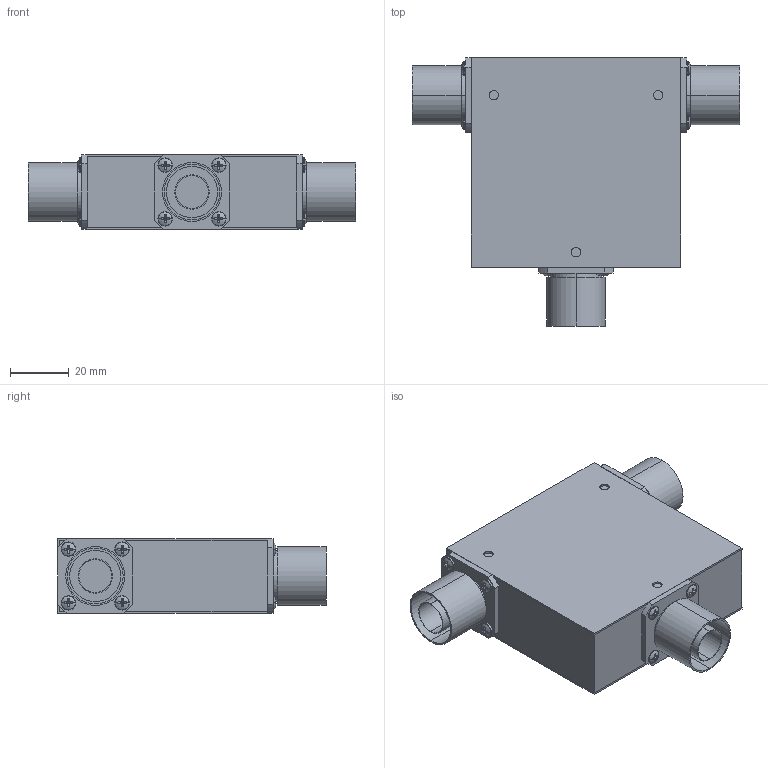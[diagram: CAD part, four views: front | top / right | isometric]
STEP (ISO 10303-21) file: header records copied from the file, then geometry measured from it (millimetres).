
FILE_DESCRIPTION (( 'STEP AP214' ), '1' );
FILE_NAME ('Package 20 Circ MMM Type-N.step', '2021-12-01T20:59:42', ( '' ), ( '' ), 'SwSTEP 2.0', 'SolidWorks 2016', '' );
FILE_SCHEMA (( 'AUTOMOTIVE_DESIGN' ));
Length unit declared in the file: inch
Products named in the file (5): Delta Type N Male, 1.0in flange; Package 20; pan cross head_ai_CR-PHMS 0.099-56x0.125x0.125-N; Package 20 Circ MMM Type-N; Package Size 20
Assembly tree (17 placements, depth 2):
  Package 20 Circ MMM Type-N
    Package Size 20
    Package 20
    pan cross head_ai_CR-PHMS 0.099-56x0.125x0.125-N  x12
    Delta Type N Male, 1.0in flange  x3
Bounding box: 111.25 x 91.19 x 25.4 mm (x, y, z)
Volume: 135595.5 mm3; surface area: 56352 mm2
Topology: 20 solids, 20 shells, 403 faces, 906 edges, 564 vertices
Faces by surface type: plane 229, cylinder 126, torus 24, sphere 24
Entity records: 2845 total; most frequent: DIRECTION 506, CARTESIAN_POINT 434, ORIENTED_EDGE 400, AXIS2_PLACEMENT_3D 202, EDGE_CURVE 200, VERTEX_POINT 130, EDGE_LOOP 110, VECTOR 102
